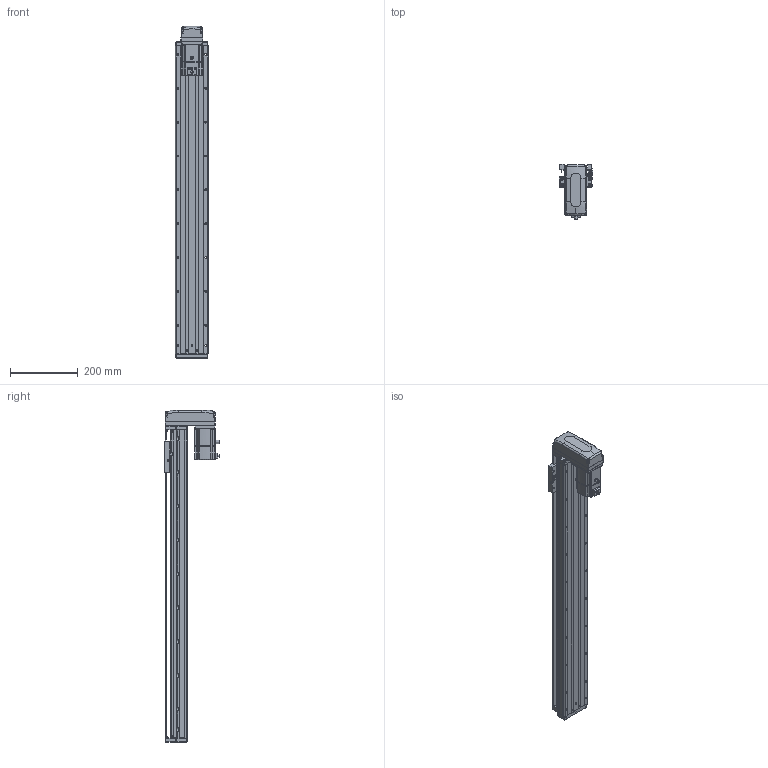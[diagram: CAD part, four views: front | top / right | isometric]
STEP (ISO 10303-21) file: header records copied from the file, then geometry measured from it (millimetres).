
FILE_DESCRIPTION (( 'STEP AP203' ), '1' );
FILE_NAME ('KTHA100-750-BM-M20-C4L.step', '2022-04-26T01:54:18', ( '微软用户' ), ( '微软中国' ), 'SwSTEP 2.0', 'SolidWorks 2020', '' );
FILE_SCHEMA (( 'CONFIG_CONTROL_DESIGN' ));
Length unit declared in the file: millimetre
Products named in the file (17): KTHA100-005; GBT70.1 M5℅16; GB¨uT 70.2-M3¡Á5_M3¡Á6; CTHA60-016; EE_SX911P_R; GBT 70.3-M3℅6; CTHA60-017; _X2_4E0983F1_X0_200W_1; KTHA100-001_910; CTHA60-021; CTHA86-015-1_CTHA86-015-2; KTHA100-002; GBT77-2000 M3×3; CTHA86-033; KTHA100-004; GBT 70.1-M3℅6; KTHA100-750-BM-M20-C4L
Assembly tree (57 placements, depth 2):
  KTHA100-750-BM-M20-C4L
    KTHA100-001_910
    KTHA100-002
    KTHA100-004
    KTHA100-005
    GB¨uT 70.2-M3¡Á5_M3¡Á6  x6
    EE_SX911P_R  x3
    CTHA60-017  x3
    CTHA60-021  x2
    GBT77-2000 M3×3  x6
    GBT 70.1-M3℅6  x10
    GBT70.1 M5℅16  x14
    CTHA60-016  x2
    GBT 70.3-M3℅6  x4
    _X2_4E0983F1_X0_200W_1
    CTHA86-015-1_CTHA86-015-2
    CTHA86-033
Bounding box: 98.82 x 163.2 x 981 mm (x, y, z)
Volume: 4226899.5 mm3; surface area: 687839.6 mm2
Topology: 60 solids, 60 shells, 2477 faces, 5945 edges, 3688 vertices
Faces by surface type: plane 1268, cylinder 689, cone 313, torus 116, bspline 75, sphere 16
Entity records: 43240 total; most frequent: CARTESIAN_POINT 8672, DIRECTION 6712, ORIENTED_EDGE 6502, EDGE_CURVE 3251, AXIS2_PLACEMENT_3D 2336, VERTEX_POINT 2048, LINE 2040, VECTOR 2040
